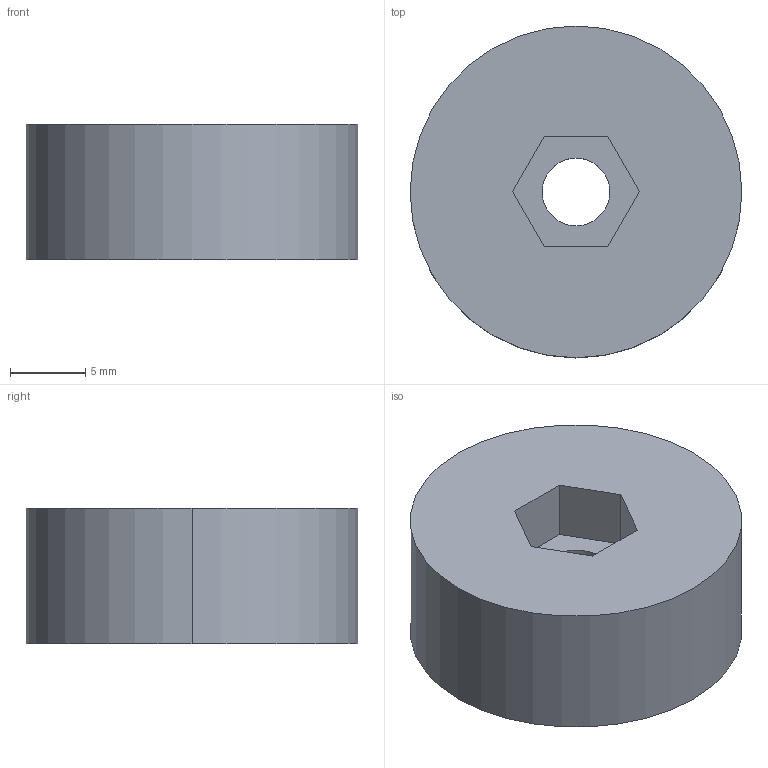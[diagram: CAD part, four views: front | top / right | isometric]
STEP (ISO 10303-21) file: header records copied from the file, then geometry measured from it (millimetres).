
FILE_DESCRIPTION (( 'STEP AP203' ), '1' );
FILE_NAME ('06_m4_nut_knob.step', '2026-09-29T11:27:42', ( '' ), ( '' ), 'SwSTEP 2.0', 'SolidWorks 2025', '' );
FILE_SCHEMA (( 'CONFIG_CONTROL_DESIGN' ));
Length unit declared in the file: millimetre
Products named in the file (1): 06_m4_nut_knob
Bounding box: 22 x 22 x 9 mm (x, y, z)
Volume: 3157.1 mm3; surface area: 1522.3 mm2
Topology: 1 solids, 1 shells, 13 faces, 30 edges, 20 vertices
Faces by surface type: plane 9, cylinder 4
Entity records: 453 total; most frequent: DIRECTION 66, CARTESIAN_POINT 64, ORIENTED_EDGE 60, EDGE_CURVE 30, VECTOR 22, AXIS2_PLACEMENT_3D 22, LINE 22, VERTEX_POINT 20
